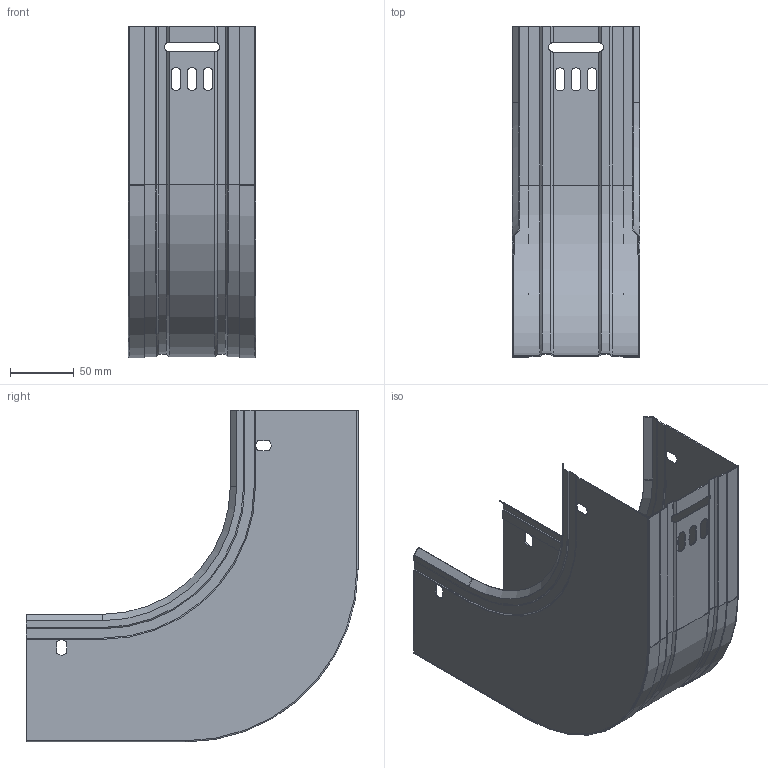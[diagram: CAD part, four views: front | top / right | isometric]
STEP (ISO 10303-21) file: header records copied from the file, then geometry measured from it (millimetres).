
FILE_DESCRIPTION (( 'STEP AP203' ), '1' );
FILE_NAME ('ERE_CONCAVA 100x100.step', '2023-07-27T18:54:15', ( '' ), ( '' ), 'SwSTEP 2.0', 'SolidWorks 2022', '' );
FILE_SCHEMA (( 'CONFIG_CONTROL_DESIGN' ));
Length unit declared in the file: millimetre
Products named in the file (3): ERE_BASE CC_100x100; ERE_LATERAL CC_100; ERE_CONCAVA 100x100
Assembly tree (3 placements, depth 2):
  ERE_CONCAVA 100x100
    ERE_BASE CC_100x100
    ERE_LATERAL CC_100  x2
Bounding box: 100 x 260 x 260 mm (x, y, z)
Volume: 110070.9 mm3; surface area: 278107.9 mm2
Topology: 3 solids, 3 shells, 220 faces, 588 edges, 366 vertices
Faces by surface type: plane 142, cylinder 52, cone 22, torus 4
Entity records: 5416 total; most frequent: CARTESIAN_POINT 932, ORIENTED_EDGE 880, DIRECTION 867, EDGE_CURVE 440, LINE 319, VECTOR 319, VERTEX_POINT 275, AXIS2_PLACEMENT_3D 274
